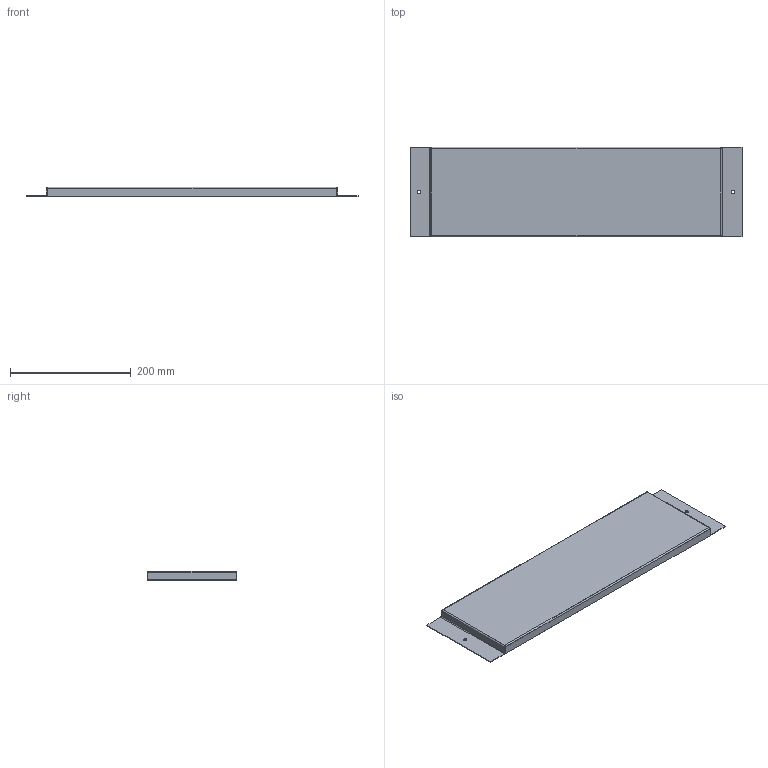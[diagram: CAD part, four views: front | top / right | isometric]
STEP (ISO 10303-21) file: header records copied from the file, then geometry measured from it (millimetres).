
FILE_DESCRIPTION (( 'STEP AP203' ), '1' );
FILE_NAME ('MB 15.55 Ïàíåëü ìîäóëüíàÿ.STEP', '2012-12-05T07:59:43', ( 'Àëåêñàíäð' ), ( 'Ïðîâåíòî' ), 'SwSTEP 2.0', 'SolidWorks 2012', '' );
FILE_SCHEMA (( 'CONFIG_CONTROL_DESIGN' ));
Length unit declared in the file: millimetre
Products named in the file (1): MB 15.55 Ïàíåëü ìîäóëüíàÿ
Bounding box: 550.6 x 149 x 15.6 mm (x, y, z)
Volume: 118657.9 mm3; surface area: 199643.4 mm2
Topology: 1 solids, 1 shells, 66 faces, 144 edges, 80 vertices
Faces by surface type: plane 50, cylinder 16
Entity records: 1821 total; most frequent: DIRECTION 310, CARTESIAN_POINT 291, ORIENTED_EDGE 288, EDGE_CURVE 144, VECTOR 112, LINE 112, AXIS2_PLACEMENT_3D 99, VERTEX_POINT 80
